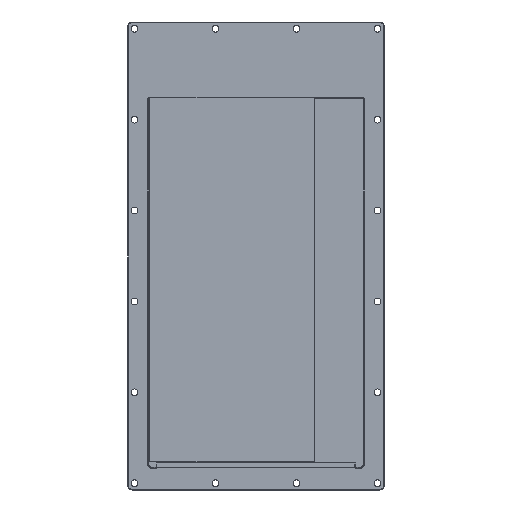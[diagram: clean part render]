
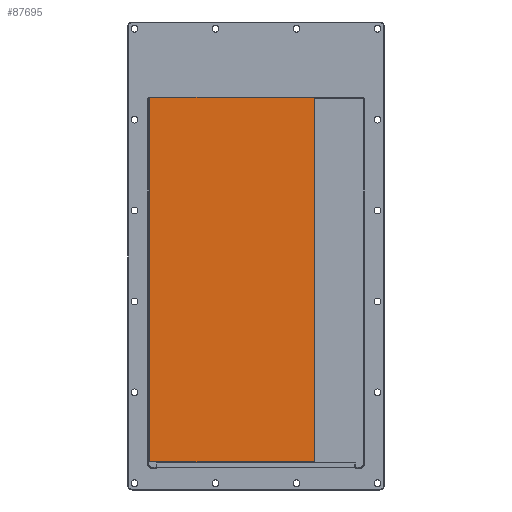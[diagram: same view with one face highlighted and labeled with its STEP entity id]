
A CAD part, front view. The second image highlights one B-rep face of the part: STEP entity #87695.
In plain terms, the highlighted planar face has unit normal (0, -1, 0).
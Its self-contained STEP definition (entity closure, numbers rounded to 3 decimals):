
#5462 = LINE ( 'NONE', #45347, #96426 ) ;
#6404 = CARTESIAN_POINT ( 'NONE',  ( 91.5, -15.5, 231.5 ) ) ;
#6951 = ORIENTED_EDGE ( 'NONE', *, *, #82144, .T. ) ;
#8867 = DIRECTION ( 'NONE',  ( 0., 1., 0. ) ) ;
#16125 = CARTESIAN_POINT ( 'NONE',  ( 91.5, -15.5, -173.5 ) ) ;
#17201 = AXIS2_PLACEMENT_3D ( 'NONE', #26202, #8867, #26710 ) ;
#23199 = CARTESIAN_POINT ( 'NONE',  ( -91.5, -15.5, 231.5 ) ) ;
#25959 = VECTOR ( 'NONE', #42868, 1000. ) ;
#26202 = CARTESIAN_POINT ( 'NONE',  ( 0., -15.5, 0. ) ) ;
#26710 = DIRECTION ( 'NONE',  ( 0., 0., 1. ) ) ;
#31867 = LINE ( 'NONE', #16125, #88027 ) ;
#32697 = EDGE_CURVE ( 'NONE', #79362, #98646, #42356, .T. ) ;
#34945 = CARTESIAN_POINT ( 'NONE',  ( -91.5, -15.5, 231.5 ) ) ;
#37480 = DIRECTION ( 'NONE',  ( -1., 0., 0. ) ) ;
#40339 = ORIENTED_EDGE ( 'NONE', *, *, #55605, .T. ) ;
#42356 = LINE ( 'NONE', #75838, #25959 ) ;
#42868 = DIRECTION ( 'NONE',  ( 0., 0., 1. ) ) ;
#43486 = EDGE_LOOP ( 'NONE', ( #45348, #40339, #6951, #70637 ) ) ;
#45347 = CARTESIAN_POINT ( 'NONE',  ( 91.5, -15.5, 231.5 ) ) ;
#45348 = ORIENTED_EDGE ( 'NONE', *, *, #32697, .T. ) ;
#52875 = VECTOR ( 'NONE', #53608, 1000. ) ;
#53608 = DIRECTION ( 'NONE',  ( 0., 0., -1. ) ) ;
#55605 = EDGE_CURVE ( 'NONE', #98646, #68337, #5462, .T. ) ;
#62296 = DIRECTION ( 'NONE',  ( 1., 0., 0. ) ) ;
#68337 = VERTEX_POINT ( 'NONE', #34945 ) ;
#70637 = ORIENTED_EDGE ( 'NONE', *, *, #70648, .T. ) ;
#70648 = EDGE_CURVE ( 'NONE', #82944, #79362, #31867, .T. ) ;
#73367 = PLANE ( 'NONE',  #17201 ) ;
#75838 = CARTESIAN_POINT ( 'NONE',  ( 91.5, -15.5, 231.5 ) ) ;
#79362 = VERTEX_POINT ( 'NONE', #84277 ) ;
#82144 = EDGE_CURVE ( 'NONE', #68337, #82944, #95006, .T. ) ;
#82944 = VERTEX_POINT ( 'NONE', #87154 ) ;
#84277 = CARTESIAN_POINT ( 'NONE',  ( 91.5, -15.5, -173.5 ) ) ;
#87154 = CARTESIAN_POINT ( 'NONE',  ( -91.5, -15.5, -173.5 ) ) ;
#87695 = ADVANCED_FACE ( 'NONE', ( #98550 ), #73367, .F. ) ;
#88027 = VECTOR ( 'NONE', #62296, 1000. ) ;
#95006 = LINE ( 'NONE', #23199, #52875 ) ;
#96426 = VECTOR ( 'NONE', #37480, 1000. ) ;
#98550 = FACE_OUTER_BOUND ( 'NONE', #43486, .T. ) ;
#98646 = VERTEX_POINT ( 'NONE', #6404 ) ;
